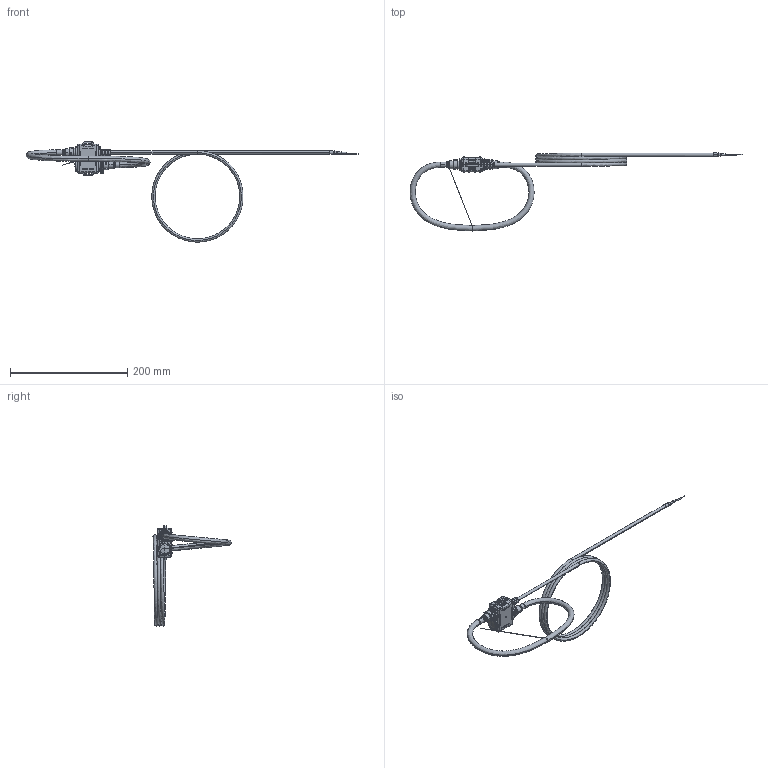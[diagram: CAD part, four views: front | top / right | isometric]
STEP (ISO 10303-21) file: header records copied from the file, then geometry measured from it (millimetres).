
FILE_DESCRIPTION(('Creo Elements/Direct Modeling STEP Export'),'2;1');
FILE_NAME('D125.stp','2019-07-11T15:54:26',(''),(''),'Creo Elements/Direct Modeling STEP processor for AP214 (Solid Model)','Creo Elements/Direct Modeling 20.1 10-Mar-2018 (C) Parametric Technology GmbH','');
FILE_SCHEMA(('AUTOMOTIVE_DESIGN { 1 0 10303 214 1 1 1 1 }'));
Length unit declared in the file: millimetre
Products named in the file (4): Short_Sheath_loop-L17005A; Case-L17005A.1
Assembly tree (2 placements, depth 2):
  Short_Sheath_loop-L17005A
    Short_Sheath_loop-L17005A
  Case-L17005A.1
    Case-L17005A.1
Bounding box: 566.88 x 133.35 x 171 mm (x, y, z)
Volume: 107469.5 mm3; surface area: 71387.1 mm2
Topology: 2 solids, 2 shells, 793 faces, 2078 edges, 1289 vertices
Faces by surface type: plane 293, cylinder 260, bspline 128, torus 59, cone 38, sphere 14, extrusion 1
Entity records: 54774 total; most frequent: CARTESIAN_POINT 31413, ORIENTED_EDGE 4120, DIRECTION 3262, EDGE_CURVE 2060, VERTEX_POINT 1289, AXIS2_PLACEMENT_3D 1262, EDGE_LOOP 835, FACE_OUTER_BOUND 793
